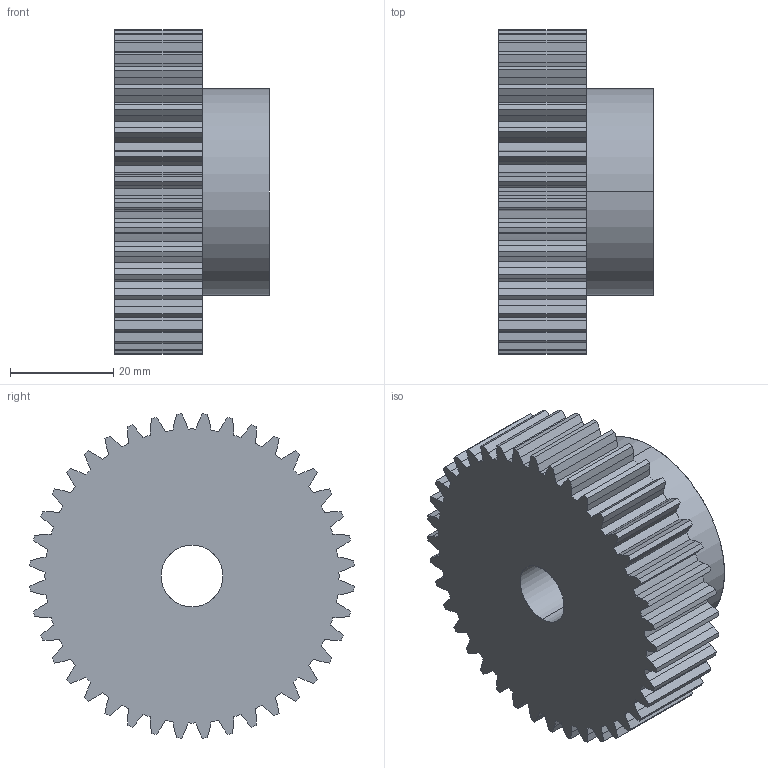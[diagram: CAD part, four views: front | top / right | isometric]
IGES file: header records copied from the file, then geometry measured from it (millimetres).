
Start section: SolidWorks IGES file using analytic representation for surfaces
Global section: file name: C:\Users\Honza\Desktop\Matis (Hotove)\Èelní ozubená kola\PM\MODUL 1,5\PM 27040.IGS; native system: SolidWorks 2010; preprocessor: SolidWorks 2010; author: Honza; date: 130924.121821; units: millimetre
Bounding box: 30 x 62.88 x 62.88 mm (x, y, z)
Surface area: 14179.2 mm2 (no closed solid volume)
Topology: 0 solids, 0 shells, 248 faces, 1655 edges, 1655 vertices
Faces by surface type: bspline 163, revolution 85
